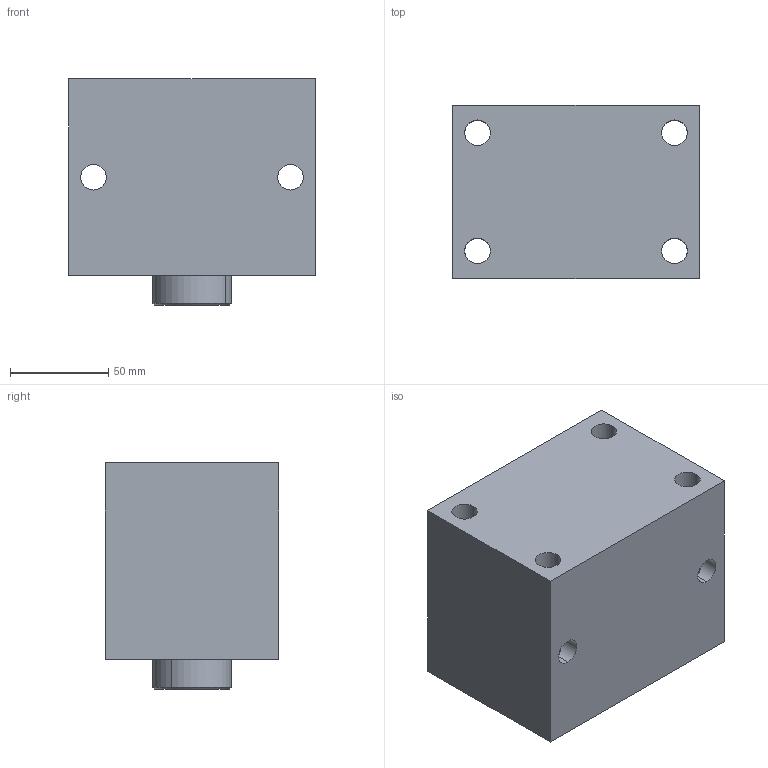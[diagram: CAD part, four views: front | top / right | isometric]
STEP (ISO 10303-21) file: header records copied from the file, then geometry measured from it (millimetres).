
FILE_DESCRIPTION (( 'STEP AP203' ), '1' );
FILE_NAME ('Block cylinder B01C-625F.STEP', '2022-07-09T18:33:48', ( '' ), ( '' ), 'SwSTEP 2.0', 'SolidWorks 2017', '' );
FILE_SCHEMA (( 'CONFIG_CONTROL_DESIGN' ));
Length unit declared in the file: millimetre
Products named in the file (3): Body_ 625F_50ST; Piston _ 625F; Block cylinder B01C-625F
Assembly tree (2 placements, depth 2):
  Block cylinder B01C-625F
    Body_ 625F_50ST
    Piston _ 625F
Bounding box: 125 x 88 x 115 mm (x, y, z)
Volume: 1142711.5 mm3; surface area: 111269.3 mm2
Topology: 2 solids, 2 shells, 342 faces, 934 edges, 609 vertices
Faces by surface type: bspline 153, plane 137, cylinder 44, cone 8
Entity records: 17385 total; most frequent: CARTESIAN_POINT 9533, ORIENTED_EDGE 1856, DIRECTION 1036, EDGE_CURVE 928, VERTEX_POINT 609, VECTOR 532, LINE 532, EDGE_LOOP 381
